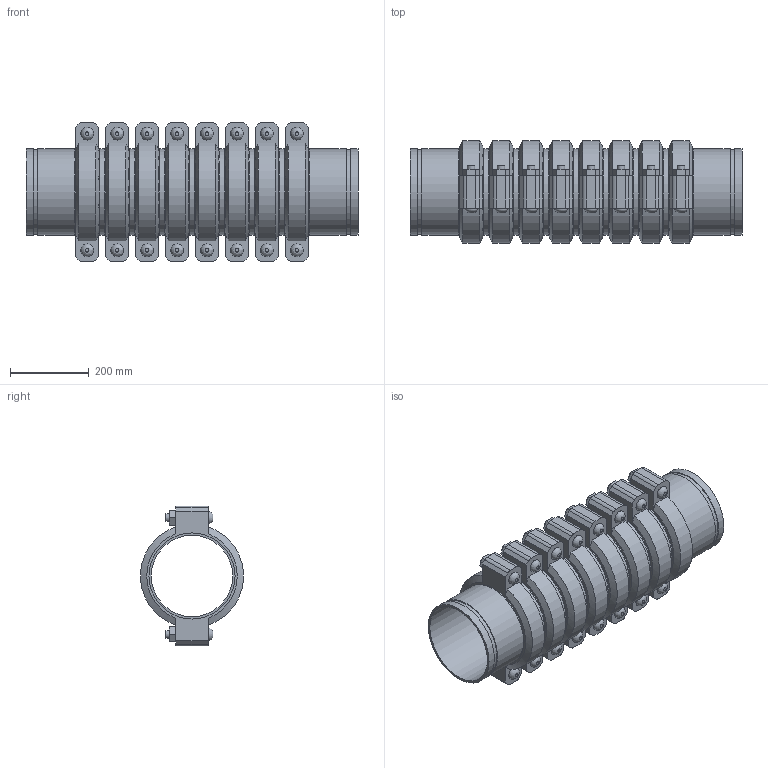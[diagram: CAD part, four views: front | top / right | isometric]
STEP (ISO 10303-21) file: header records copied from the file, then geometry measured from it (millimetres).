
FILE_DESCRIPTION(/* description */ ('VIC EXPANSION JOINT 8 COUPLINGS EXPANDED STYLE 155 (OGS)','CAx-IF Rec.Pracs.---Representation and Presentation of Product Manufacturing Information (PMI)---4.0---2014-10-13'),/* implementation_level */ '2;1');
FILE_NAME(/* name */ 'C:\Users\kkamble\AppData\Roaming\Autodesk\ApplicationPlugins\Victaulic.Temp\A413\Victaulic_IPS_Expansion Joint_Expanded_8 Couplings_Style 155 (OGS)_8 (200).stp',/* time_stamp */ '2021-06-27T00:09:37+02:00',/* author */ ('kkamble'),/* organization */ ('Victaulic'),/* preprocessor_version */ 'ST-DEVELOPER v17.2',/* originating_system */ 'Autodesk Inventor 2019',/* authorisation */ '');
FILE_SCHEMA (('AP242_MANAGED_MODEL_BASED_3D_ENGINEERING_MIM_LF { 1 0 10303 442 1 1 4 }'));
Length unit declared in the file: inch
Products named in the file (4): 155-08.0; Nipple-08.0; Nipple-08.0_1; 075-08.0
Assembly tree (17 placements, depth 2):
  155-08.0
    Nipple-08.0  x2
    Nipple-08.0_1  x7
    075-08.0  x8
Bounding box: 844.55 x 261.72 x 354.84 mm (x, y, z)
Volume: 14102355.1 mm3; surface area: 2593305.6 mm2
Topology: 17 solids, 33 shells, 564 faces, 1334 edges, 936 vertices
Faces by surface type: plane 342, cylinder 174, cone 32, bspline 16
Full cylindrical faces by diameter (mm): 19.05 x32, 21.209 x16, 206.985 x9, 212.725 x8, 214.401 x18, 219.075 x43
Entity records: 2849 total; most frequent: CARTESIAN_POINT 501, DIRECTION 477, ORIENTED_EDGE 386, EDGE_CURVE 193, AXIS2_PLACEMENT_3D 192, VERTEX_POINT 138, EDGE_LOOP 107, LINE 93
